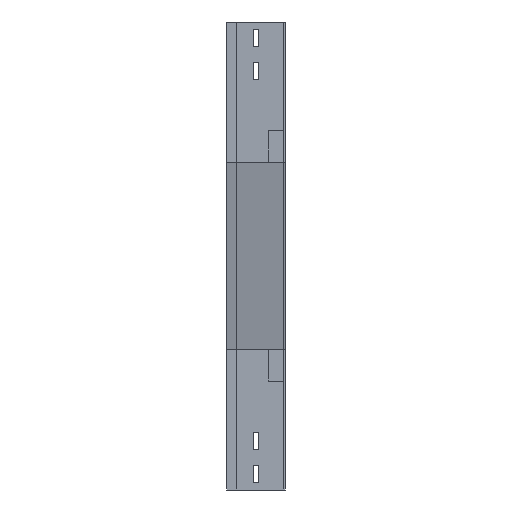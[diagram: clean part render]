
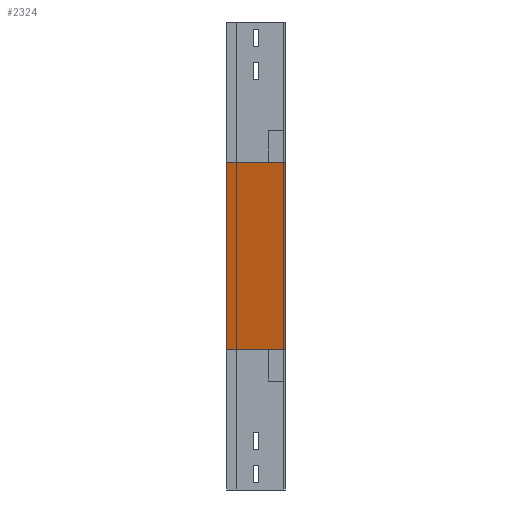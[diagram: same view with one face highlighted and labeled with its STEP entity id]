
A CAD part, left-side view. The second image highlights one B-rep face of the part: STEP entity #2324.
In plain terms, the highlighted planar face has unit normal (-0.979, 0, -0.204).
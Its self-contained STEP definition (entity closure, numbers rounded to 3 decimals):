
#78 = DIRECTION ( 'NONE',  ( 0.979, 0., 0.204 ) ) ;
#148 = ORIENTED_EDGE ( 'NONE', *, *, #1043, .F. ) ;
#152 = AXIS2_PLACEMENT_3D ( 'NONE', #1620, #78, #2234 ) ;
#174 = CARTESIAN_POINT ( 'NONE',  ( 0., 75., -180. ) ) ;
#402 = EDGE_LOOP ( 'NONE', ( #3644, #148, #3584, #2939 ) ) ;
#442 = LINE ( 'NONE', #1685, #804 ) ;
#558 = CARTESIAN_POINT ( 'NONE',  ( 0., 0., -180. ) ) ;
#630 = CARTESIAN_POINT ( 'NONE',  ( 0., 0., -180. ) ) ;
#804 = VECTOR ( 'NONE', #1357, 1000. ) ;
#996 = FACE_OUTER_BOUND ( 'NONE', #402, .T. ) ;
#1043 = EDGE_CURVE ( 'NONE', #1982, #3432, #3582, .T. ) ;
#1157 = CARTESIAN_POINT ( 'NONE',  ( 0., 0., -180. ) ) ;
#1357 = DIRECTION ( 'NONE',  ( 0., 1., 0. ) ) ;
#1377 = VECTOR ( 'NONE', #3643, 1000. ) ;
#1412 = DIRECTION ( 'NONE',  ( 0.204, 0., -0.979 ) ) ;
#1530 = CARTESIAN_POINT ( 'NONE',  ( 50., 0., -420. ) ) ;
#1584 = CARTESIAN_POINT ( 'NONE',  ( 50., 75., -420. ) ) ;
#1620 = CARTESIAN_POINT ( 'NONE',  ( 0., 0., -180. ) ) ;
#1685 = CARTESIAN_POINT ( 'NONE',  ( 50., 0., -420. ) ) ;
#1908 = VECTOR ( 'NONE', #1412, 1000. ) ;
#1928 = CARTESIAN_POINT ( 'NONE',  ( 0., 75., -180. ) ) ;
#1982 = VERTEX_POINT ( 'NONE', #1928 ) ;
#1992 = VECTOR ( 'NONE', #3050, 1000. ) ;
#2221 = EDGE_CURVE ( 'NONE', #2639, #3076, #442, .T. ) ;
#2234 = DIRECTION ( 'NONE',  ( 0.204, 0., -0.979 ) ) ;
#2324 = ADVANCED_FACE ( 'NONE', ( #996 ), #3402, .F. ) ;
#2466 = EDGE_CURVE ( 'NONE', #1982, #3076, #2650, .T. ) ;
#2565 = EDGE_CURVE ( 'NONE', #3432, #2639, #3009, .T. ) ;
#2639 = VERTEX_POINT ( 'NONE', #1530 ) ;
#2650 = LINE ( 'NONE', #174, #1908 ) ;
#2939 = ORIENTED_EDGE ( 'NONE', *, *, #2221, .F. ) ;
#3009 = LINE ( 'NONE', #558, #1992 ) ;
#3050 = DIRECTION ( 'NONE',  ( 0.204, 0., -0.979 ) ) ;
#3076 = VERTEX_POINT ( 'NONE', #1584 ) ;
#3402 = PLANE ( 'NONE',  #152 ) ;
#3432 = VERTEX_POINT ( 'NONE', #1157 ) ;
#3582 = LINE ( 'NONE', #630, #1377 ) ;
#3584 = ORIENTED_EDGE ( 'NONE', *, *, #2466, .T. ) ;
#3643 = DIRECTION ( 'NONE',  ( 0., -1., 0. ) ) ;
#3644 = ORIENTED_EDGE ( 'NONE', *, *, #2565, .F. ) ;
